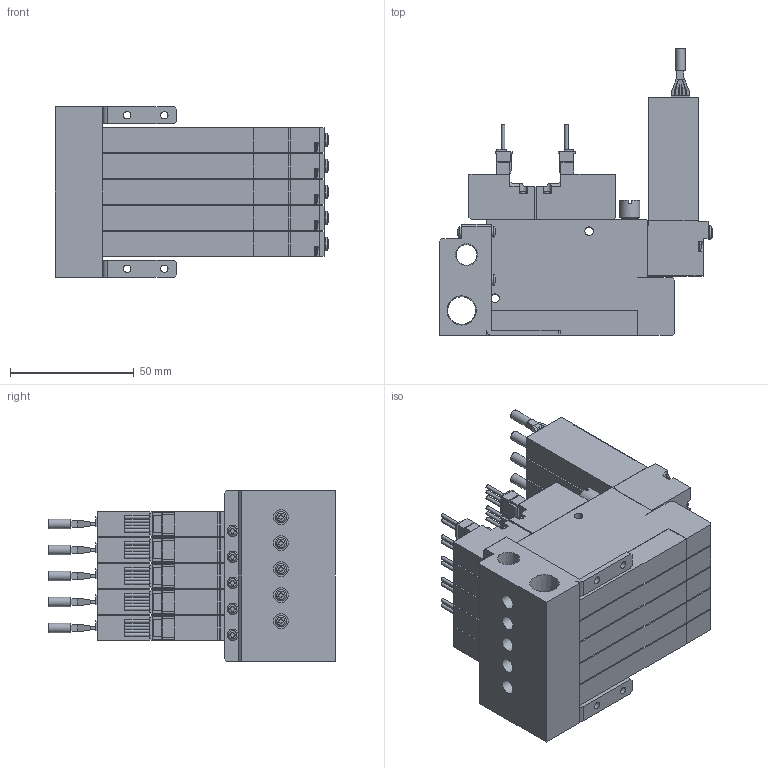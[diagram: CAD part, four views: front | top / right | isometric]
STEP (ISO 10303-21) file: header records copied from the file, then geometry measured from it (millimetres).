
FILE_DESCRIPTION(('STEP AP203'),'1');
FILE_NAME('V9C5WC505_3D.stp','2024-09-04T22:51:25',(' '),(' '),'Spatial InterOp 3D',' ',' ');
FILE_SCHEMA(('CONFIG_CONTROL_DESIGN'));
Length unit declared in the file: millimetre
Products named in the file (5): BSC1M※※V9C5WC505; Solenoid valve W; Pressure Sensor V9; Unit-C; BaseMC50R
Assembly tree (16 placements, depth 2):
  BSC1M※※V9C5WC505
    Solenoid valve W  x5
    Pressure Sensor V9  x5
    Unit-C  x5
    BaseMC50R
Bounding box: 110.35 x 115.8 x 69 mm (x, y, z)
Volume: 336406.6 mm3; surface area: 116375.2 mm2
Topology: 16 solids, 16 shells, 2182 faces, 5886 edges, 3880 vertices
Faces by surface type: plane 1682, cylinder 403, cone 39, sphere 29, torus 29
Full cylindrical faces by diameter (mm): 1.4 x25, 2.5 x10, 3 x24, 3.5 x40, 3.8 x5, 4 x5, 4.134 x10, 4.5 x14, 5.5 x10, 6 x5, 7 x10, 8 x5, 8.422 x1, 11.233 x1
Entity records: 20546 total; most frequent: CARTESIAN_POINT 4610, DIRECTION 3195, ORIENTED_EDGE 3088, EDGE_CURVE 1544, VERTEX_POINT 1085, AXIS2_PLACEMENT_3D 1067, LINE 1061, VECTOR 1061
